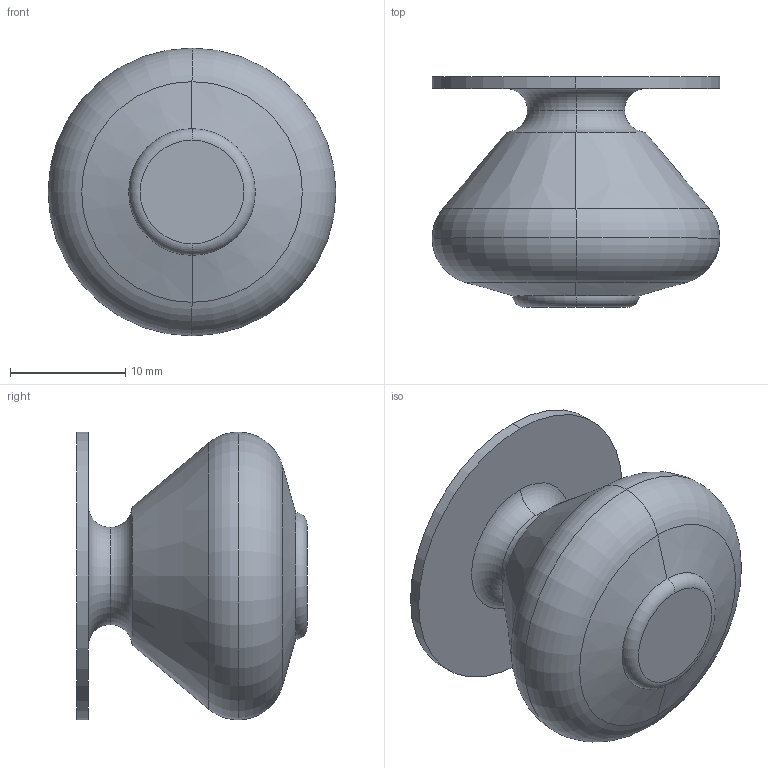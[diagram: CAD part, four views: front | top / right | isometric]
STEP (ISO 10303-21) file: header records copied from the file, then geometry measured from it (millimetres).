
FILE_DESCRIPTION( ( '' ), '1' );
FILE_NAME( 'C:/Documents and Settings/Nikhil/Desktop/Nik/Done/9071109.stp', '2013-10-23T10:48:34', ( '' ), ( '' ), ' ', ' ', ' ' );
FILE_SCHEMA( ( 'automotive_design' ) );
Length unit declared in the file: millimetre
Products named in the file (1): 1
Bounding box: 25 x 20 x 25 mm (x, y, z)
Volume: 5405.6 mm3; surface area: 2644.2 mm2
Topology: 1 solids, 1 shells, 22 faces, 42 edges, 24 vertices
Faces by surface type: torus 10, cone 4, cylinder 4, plane 4
Entity records: 1094 total; most frequent: DIRECTION 122, STYLED_ITEM 89, PRESENTATION_STYLE_ASSIGNMENT 89, CARTESIAN_POINT 89, COLOUR_RGB 89, ORIENTED_EDGE 84, AXIS2_PLACEMENT_3D 57, EDGE_CURVE 42
